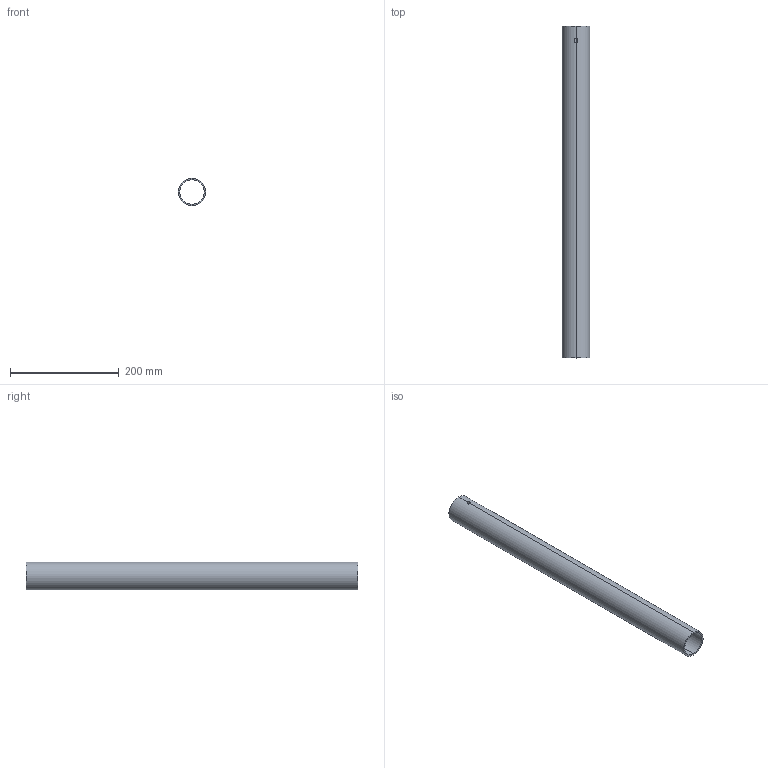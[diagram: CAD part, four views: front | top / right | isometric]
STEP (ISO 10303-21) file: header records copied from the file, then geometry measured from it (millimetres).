
FILE_DESCRIPTION (( 'STEP AP203' ), '1' );
FILE_NAME ('10-0502-00 REV 1, POLE, 2in OD x 2 FT.STEP', '2018-01-24T21:40:14', ( '' ), ( '' ), 'SwSTEP 2.0', 'SolidWorks 2012', '' );
FILE_SCHEMA (( 'CONFIG_CONTROL_DESIGN' ));
Length unit declared in the file: inch
Products named in the file (1): 10-0502-00 REV 1, POLE, 2in OD x 2 FT
Bounding box: 50.8 x 609.6 x 50.8 mm (x, y, z)
Volume: 278626.8 mm3; surface area: 183807 mm2
Topology: 1 solids, 1 shells, 8 faces, 24 edges, 16 vertices
Faces by surface type: cylinder 6, plane 2
Entity records: 483 total; most frequent: CARTESIAN_POINT 185, ORIENTED_EDGE 48, DIRECTION 42, EDGE_CURVE 24, AXIS2_PLACEMENT_3D 17, VERTEX_POINT 16, EDGE_LOOP 10, B_SPLINE_CURVE_WITH_KNOTS 8
